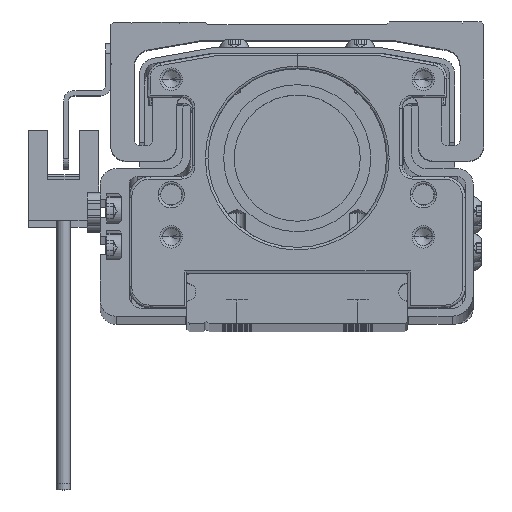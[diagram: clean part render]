
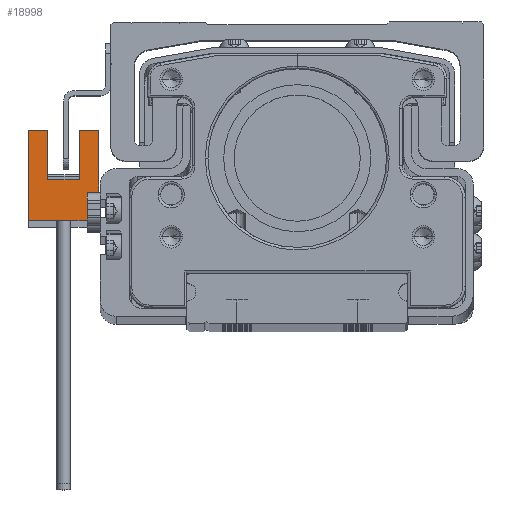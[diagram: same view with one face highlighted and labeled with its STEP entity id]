
A CAD part, top view. The second image highlights one B-rep face of the part: STEP entity #18998.
In plain terms, the highlighted planar face has unit normal (0, 0, 1) as drawn and (-1, 0, 0) by its records, which use the part's own axes.
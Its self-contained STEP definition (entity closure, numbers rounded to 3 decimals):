
#314 = ORIENTED_EDGE ( 'NONE', *, *, #18457, .T. ) ;
#1254 = AXIS2_PLACEMENT_3D ( 'NONE', #34165, #33745, #33731 ) ;
#2736 = EDGE_CURVE ( 'NONE', #51318, #27556, #30056, .T. ) ;
#3423 = DIRECTION ( 'NONE',  ( 0., 1., 0. ) ) ;
#3701 = VERTEX_POINT ( 'NONE', #45979 ) ;
#3929 = CARTESIAN_POINT ( 'NONE',  ( -3., 2., 0. ) ) ;
#4953 = ORIENTED_EDGE ( 'NONE', *, *, #26334, .T. ) ;
#5212 = EDGE_LOOP ( 'NONE', ( #13862, #21249, #14384, #41647, #18355, #26006, #22723, #23047, #314, #4953 ) ) ;
#5523 = EDGE_CURVE ( 'NONE', #16478, #43521, #40647, .T. ) ;
#6174 = CARTESIAN_POINT ( 'NONE',  ( -3., 2., 9.7 ) ) ;
#6484 = DIRECTION ( 'NONE',  ( 0., 1., 0. ) ) ;
#7980 = DIRECTION ( 'NONE',  ( 0., 0., 1. ) ) ;
#8169 = LINE ( 'NONE', #10550, #43022 ) ;
#8290 = CARTESIAN_POINT ( 'NONE',  ( -3., -15.2, -3.7 ) ) ;
#8408 = VERTEX_POINT ( 'NONE', #32336 ) ;
#10180 = LINE ( 'NONE', #43564, #32201 ) ;
#10437 = DIRECTION ( 'NONE',  ( 0., -1., 0. ) ) ;
#10550 = CARTESIAN_POINT ( 'NONE',  ( -3., 2., 6. ) ) ;
#11178 = CARTESIAN_POINT ( 'NONE',  ( -3., -15.2, 7.5 ) ) ;
#11893 = EDGE_CURVE ( 'NONE', #55697, #37096, #35552, .T. ) ;
#12324 = DIRECTION ( 'NONE',  ( 0., 0., -1. ) ) ;
#12395 = CARTESIAN_POINT ( 'NONE',  ( -3., -7.4, -3.7 ) ) ;
#13862 = ORIENTED_EDGE ( 'NONE', *, *, #2736, .T. ) ;
#14384 = ORIENTED_EDGE ( 'NONE', *, *, #38225, .T. ) ;
#15287 = VECTOR ( 'NONE', #12324, 1000. ) ;
#16382 = CARTESIAN_POINT ( 'NONE',  ( -3., 2., -3.7 ) ) ;
#16455 = DIRECTION ( 'NONE',  ( 0., 0., -1. ) ) ;
#16478 = VERTEX_POINT ( 'NONE', #29284 ) ;
#17022 = EDGE_CURVE ( 'NONE', #46167, #16478, #26947, .T. ) ;
#17391 = VECTOR ( 'NONE', #44916, 1000. ) ;
#18317 = VECTOR ( 'NONE', #7980, 1000. ) ;
#18355 = ORIENTED_EDGE ( 'NONE', *, *, #39399, .T. ) ;
#18457 = EDGE_CURVE ( 'NONE', #43521, #8408, #43754, .T. ) ;
#18998 = ADVANCED_FACE ( 'NONE', ( #20585 ), #33982, .T. ) ;
#20340 = VERTEX_POINT ( 'NONE', #39945 ) ;
#20585 = FACE_OUTER_BOUND ( 'NONE', #5212, .T. ) ;
#21249 = ORIENTED_EDGE ( 'NONE', *, *, #55868, .T. ) ;
#21433 = DIRECTION ( 'NONE',  ( 0., 0., 1. ) ) ;
#21547 = CARTESIAN_POINT ( 'NONE',  ( -3., -9.9, -3.7 ) ) ;
#21799 = VECTOR ( 'NONE', #3423, 1000. ) ;
#22723 = ORIENTED_EDGE ( 'NONE', *, *, #17022, .T. ) ;
#23047 = ORIENTED_EDGE ( 'NONE', *, *, #5523, .T. ) ;
#23189 = LINE ( 'NONE', #29893, #21799 ) ;
#26006 = ORIENTED_EDGE ( 'NONE', *, *, #43330, .T. ) ;
#26334 = EDGE_CURVE ( 'NONE', #8408, #51318, #10180, .T. ) ;
#26947 = LINE ( 'NONE', #12395, #15287 ) ;
#27556 = VERTEX_POINT ( 'NONE', #11178 ) ;
#29284 = CARTESIAN_POINT ( 'NONE',  ( -3., -7.4, 0. ) ) ;
#29893 = CARTESIAN_POINT ( 'NONE',  ( -3., -16.1, 7.5 ) ) ;
#30056 = LINE ( 'NONE', #8290, #18317 ) ;
#31261 = LINE ( 'NONE', #16382, #52574 ) ;
#32201 = VECTOR ( 'NONE', #43557, 1000. ) ;
#32336 = CARTESIAN_POINT ( 'NONE',  ( -3., 2., -3.7 ) ) ;
#32749 = CARTESIAN_POINT ( 'NONE',  ( -3., -9.9, 9.7 ) ) ;
#33556 = CARTESIAN_POINT ( 'NONE',  ( -3., 2., 9.7 ) ) ;
#33731 = DIRECTION ( 'NONE',  ( 0., 0., 1. ) ) ;
#33745 = DIRECTION ( 'NONE',  ( -1., 0., 0. ) ) ;
#33982 = PLANE ( 'NONE',  #1254 ) ;
#34165 = CARTESIAN_POINT ( 'NONE',  ( -3., 2., -3.7 ) ) ;
#35552 = LINE ( 'NONE', #6174, #36113 ) ;
#36113 = VECTOR ( 'NONE', #6484, 1000. ) ;
#37096 = VERTEX_POINT ( 'NONE', #33556 ) ;
#38225 = EDGE_CURVE ( 'NONE', #20340, #55697, #39464, .T. ) ;
#39399 = EDGE_CURVE ( 'NONE', #37096, #3701, #31261, .T. ) ;
#39464 = LINE ( 'NONE', #21547, #49436 ) ;
#39945 = CARTESIAN_POINT ( 'NONE',  ( -3., -9.9, 7.5 ) ) ;
#40647 = LINE ( 'NONE', #45223, #17391 ) ;
#41647 = ORIENTED_EDGE ( 'NONE', *, *, #11893, .T. ) ;
#43022 = VECTOR ( 'NONE', #10437, 1000. ) ;
#43330 = EDGE_CURVE ( 'NONE', #3701, #46167, #8169, .T. ) ;
#43521 = VERTEX_POINT ( 'NONE', #3929 ) ;
#43557 = DIRECTION ( 'NONE',  ( 0., -1., 0. ) ) ;
#43564 = CARTESIAN_POINT ( 'NONE',  ( -3., 2., -3.7 ) ) ;
#43754 = LINE ( 'NONE', #49330, #53653 ) ;
#44916 = DIRECTION ( 'NONE',  ( 0., 1., 0. ) ) ;
#45223 = CARTESIAN_POINT ( 'NONE',  ( -3., 2., 0. ) ) ;
#45979 = CARTESIAN_POINT ( 'NONE',  ( -3., 2., 6. ) ) ;
#46167 = VERTEX_POINT ( 'NONE', #54975 ) ;
#49094 = DIRECTION ( 'NONE',  ( 0., 0., -1. ) ) ;
#49330 = CARTESIAN_POINT ( 'NONE',  ( -3., 2., -3.7 ) ) ;
#49436 = VECTOR ( 'NONE', #21433, 1000. ) ;
#51318 = VERTEX_POINT ( 'NONE', #51889 ) ;
#51889 = CARTESIAN_POINT ( 'NONE',  ( -3., -15.2, -3.7 ) ) ;
#52574 = VECTOR ( 'NONE', #16455, 1000. ) ;
#53653 = VECTOR ( 'NONE', #49094, 1000. ) ;
#54975 = CARTESIAN_POINT ( 'NONE',  ( -3., -7.4, 6. ) ) ;
#55697 = VERTEX_POINT ( 'NONE', #32749 ) ;
#55868 = EDGE_CURVE ( 'NONE', #27556, #20340, #23189, .T. ) ;
